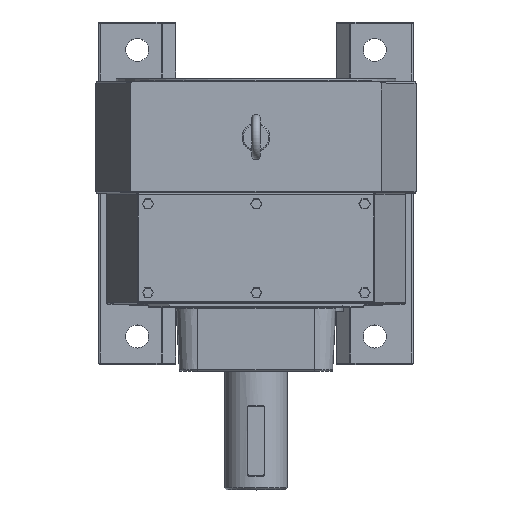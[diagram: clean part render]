
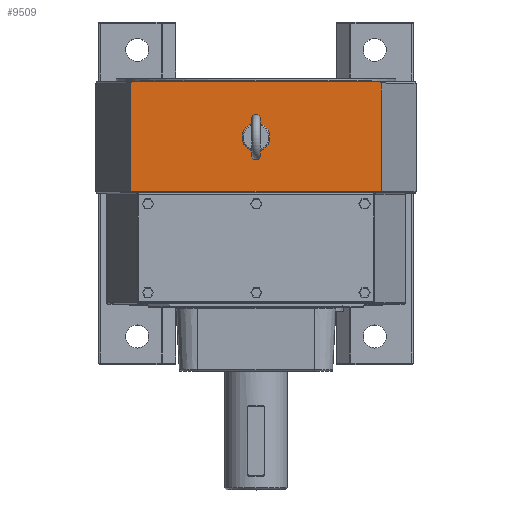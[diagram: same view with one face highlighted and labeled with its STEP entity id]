
A CAD part, top view. The second image highlights one B-rep face of the part: STEP entity #9509.
In plain terms, the highlighted planar face has unit normal (0, 0, 1).
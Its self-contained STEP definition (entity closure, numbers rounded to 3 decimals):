
#847=CARTESIAN_POINT('',(20.,79.5,495.0));
#848=VERTEX_POINT('',#847);
#849=CARTESIAN_POINT('',(0.,79.5,495.0));
#850=DIRECTION('',(0.0,0.0,-1.));
#851=DIRECTION('',(0.707,0.707,0.0));
#852=AXIS2_PLACEMENT_3D('',#849,#850,#851);
#853=CIRCLE('',#852,20.);
#854=EDGE_CURVE('',#848,#848,#853,.F.);
#2394=CARTESIAN_POINT('',(-179.,157.,495.));
#2395=VERTEX_POINT('',#2394);
#2396=CARTESIAN_POINT('',(-176.803,159.,495.));
#2397=VERTEX_POINT('',#2396);
#2398=CARTESIAN_POINT('',(-176.803,157.,495.));
#2399=DIRECTION('',(0.0,0.0,-1.0));
#2400=DIRECTION('',(-1.0,0.0,0.0));
#2401=AXIS2_PLACEMENT_3D('',#2398,#2399,#2400);
#2402=ELLIPSE('',#2401,2.197,2.0);
#2403=EDGE_CURVE('',#2395,#2397,#2402,.T.);
#2641=CARTESIAN_POINT('',(176.803,159.,495.));
#2642=VERTEX_POINT('',#2641);
#2643=CARTESIAN_POINT('',(176.803,159.,495.));
#2644=DIRECTION('',(-1.0,0.0,0.0));
#2645=VECTOR('',#2644,353.606);
#2646=LINE('',#2643,#2645);
#2647=EDGE_CURVE('',#2642,#2397,#2646,.T.);
#2898=CARTESIAN_POINT('',(179.,157.,495.));
#2899=VERTEX_POINT('',#2898);
#2900=CARTESIAN_POINT('',(176.803,157.,495.));
#2901=DIRECTION('',(0.0,0.0,-1.0));
#2902=DIRECTION('',(1.0,0.0,0.0));
#2903=AXIS2_PLACEMENT_3D('',#2900,#2901,#2902);
#2904=ELLIPSE('',#2903,2.197,2.0);
#2905=EDGE_CURVE('',#2642,#2899,#2904,.T.);
#3132=CARTESIAN_POINT('',(-179.,2.0,495.));
#3133=VERTEX_POINT('',#3132);
#3164=CARTESIAN_POINT('',(179.,2.,495.));
#3165=VERTEX_POINT('',#3164);
#3173=CARTESIAN_POINT('',(179.,2.,495.));
#3174=DIRECTION('',(-1.0,0.0,0.0));
#3175=VECTOR('',#3174,358.);
#3176=LINE('',#3173,#3175);
#3177=EDGE_CURVE('',#3165,#3133,#3176,.T.);
#9483=CARTESIAN_POINT('',(0.0,0.0,495.0));
#9484=DIRECTION('',(0.0,0.0,1.0));
#9485=DIRECTION('',(1.0,0.0,0.0));
#9486=AXIS2_PLACEMENT_3D('',#9483,#9484,#9485);
#9487=PLANE('',#9486);
#9488=ORIENTED_EDGE('',*,*,#2403,.F.);
#9489=CARTESIAN_POINT('',(-179.,2.0,495.));
#9490=DIRECTION('',(0.0,1.0,0.0));
#9491=VECTOR('',#9490,155.);
#9492=LINE('',#9489,#9491);
#9493=EDGE_CURVE('',#3133,#2395,#9492,.T.);
#9494=ORIENTED_EDGE('',*,*,#9493,.F.);
#9495=ORIENTED_EDGE('',*,*,#3177,.F.);
#9496=CARTESIAN_POINT('',(179.,2.,495.));
#9497=DIRECTION('',(0.0,1.0,0.0));
#9498=VECTOR('',#9497,155.);
#9499=LINE('',#9496,#9498);
#9500=EDGE_CURVE('',#3165,#2899,#9499,.T.);
#9501=ORIENTED_EDGE('',*,*,#9500,.T.);
#9502=ORIENTED_EDGE('',*,*,#2905,.F.);
#9503=ORIENTED_EDGE('',*,*,#2647,.T.);
#9504=EDGE_LOOP('',(#9488,#9494,#9495,#9501,#9502,#9503));
#9505=FACE_OUTER_BOUND('',#9504,.T.);
#9506=ORIENTED_EDGE('',*,*,#854,.F.);
#9507=EDGE_LOOP('',(#9506));
#9508=FACE_BOUND('',#9507,.T.);
#9509=ADVANCED_FACE('',(#9505,#9508),#9487,.T.);
